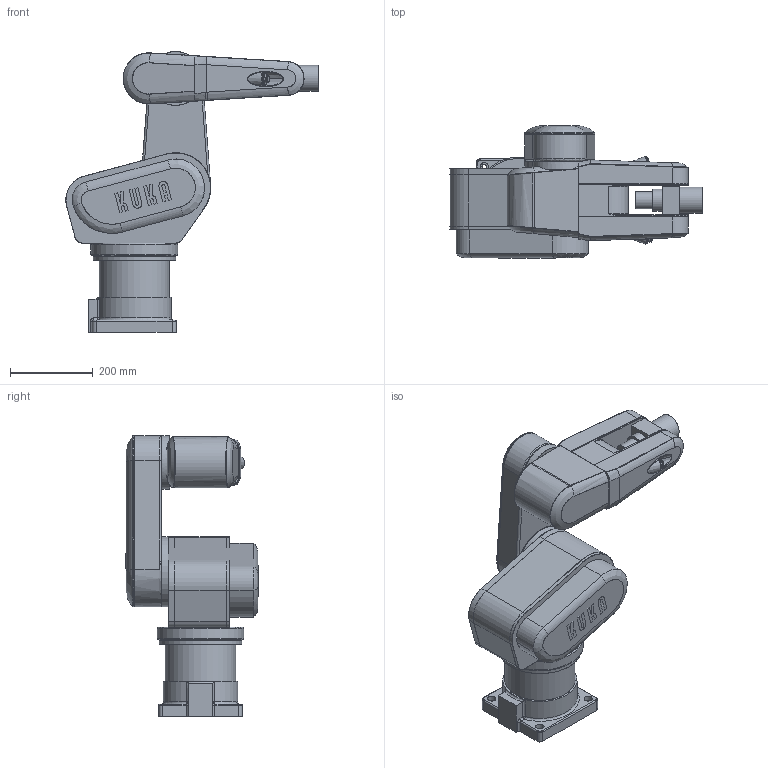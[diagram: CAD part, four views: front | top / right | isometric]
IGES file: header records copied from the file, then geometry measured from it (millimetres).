
Global section: file name: H:\internet\simple\KR3\KR3.igs; native system: Unigraphics Version 17.0; preprocessor: UG/IGES Version 16.0; date: 030611.100825; units: millimetre
Bounding box: 610.71 x 320.53 x 680 mm (x, y, z)
Surface area: 1122328.7 mm2 (no closed solid volume)
Topology: 0 solids, 0 shells, 498 faces, 4264 edges, 4208 vertices
Faces by surface type: extrusion 225, revolution 209, bspline 64
